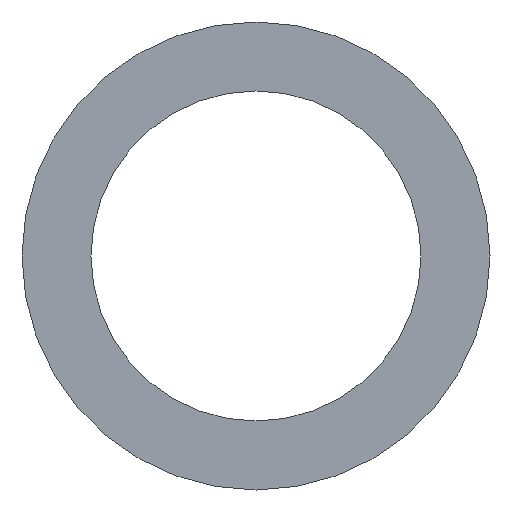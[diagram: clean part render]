
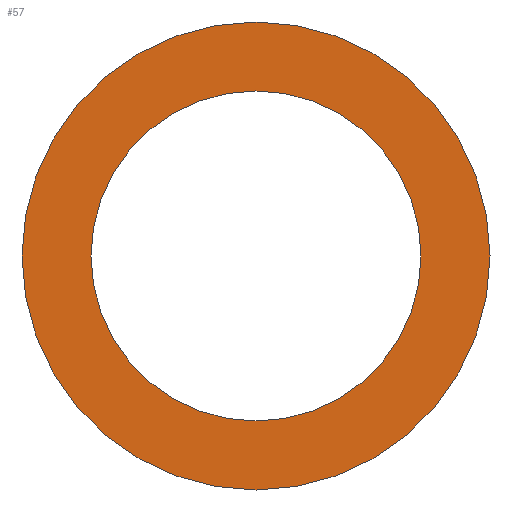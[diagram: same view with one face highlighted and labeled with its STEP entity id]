
A CAD part, left-side view. The second image highlights one B-rep face of the part: STEP entity #57.
In plain terms, the highlighted planar face has unit normal (-1, 0, 0).
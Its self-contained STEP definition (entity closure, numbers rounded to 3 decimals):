
#19=FACE_BOUND('',#30,.T.);
#23=FACE_OUTER_BOUND('',#29,.T.);
#29=EDGE_LOOP('',(#49));
#30=EDGE_LOOP('',(#50));
#35=CIRCLE('',#65,27.5);
#36=CIRCLE('',#67,39.);
#39=VERTEX_POINT('',#94);
#40=VERTEX_POINT('',#97);
#43=EDGE_CURVE('',#39,#39,#35,.T.);
#44=EDGE_CURVE('',#40,#40,#36,.T.);
#49=ORIENTED_EDGE('',*,*,#44,.F.);
#50=ORIENTED_EDGE('',*,*,#43,.T.);
#54=PLANE('',#66);
#57=ADVANCED_FACE('',(#23,#19),#54,.T.);
#65=AXIS2_PLACEMENT_3D('',#95,#79,#80);
#66=AXIS2_PLACEMENT_3D('',#96,#81,#82);
#67=AXIS2_PLACEMENT_3D('',#98,#83,#84);
#79=DIRECTION('center_axis',(1.,0.,0.));
#80=DIRECTION('ref_axis',(0.,0.,-1.));
#81=DIRECTION('center_axis',(-1.,0.,0.));
#82=DIRECTION('ref_axis',(0.,0.,1.));
#83=DIRECTION('center_axis',(1.,0.,0.));
#84=DIRECTION('ref_axis',(0.,0.,-1.));
#94=CARTESIAN_POINT('',(0.,27.5,0.));
#95=CARTESIAN_POINT('Origin',(0.,0.,0.));
#96=CARTESIAN_POINT('Origin',(0.,39.,0.));
#97=CARTESIAN_POINT('',(0.,39.,0.));
#98=CARTESIAN_POINT('Origin',(0.,0.,0.));
